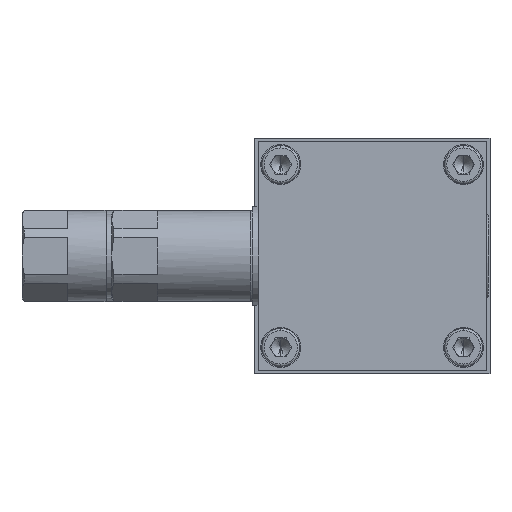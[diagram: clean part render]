
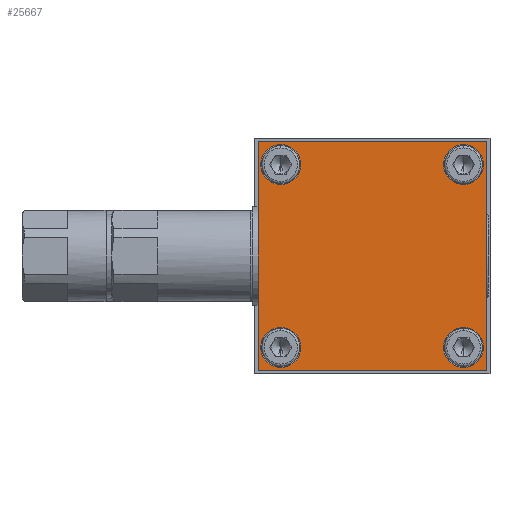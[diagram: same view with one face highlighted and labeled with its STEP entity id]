
A CAD part, left-side view. The second image highlights one B-rep face of the part: STEP entity #25667.
In plain terms, the highlighted planar face has unit normal (-1, 0, 0).
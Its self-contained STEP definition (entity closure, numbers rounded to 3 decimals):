
#409 = EDGE_LOOP ( 'NONE', ( #90012, #29654, #42961, #59176 ) ) ;
#1700 = DIRECTION ( 'NONE',  ( 0., 0., 1. ) ) ;
#3852 = CARTESIAN_POINT ( 'NONE',  ( -38., -30., 30. ) ) ;
#3922 = DIRECTION ( 'NONE',  ( -1., 0., 0. ) ) ;
#4095 = CARTESIAN_POINT ( 'NONE',  ( -38., 24.04, -24.04 ) ) ;
#6336 = AXIS2_PLACEMENT_3D ( 'NONE', #87840, #42021, #95630 ) ;
#7886 = ORIENTED_EDGE ( 'NONE', *, *, #92901, .F. ) ;
#7921 = EDGE_CURVE ( 'NONE', #59998, #23229, #30183, .T. ) ;
#11490 = AXIS2_PLACEMENT_3D ( 'NONE', #49812, #3922, #57502 ) ;
#11801 = EDGE_CURVE ( 'NONE', #59588, #82452, #30460, .T. ) ;
#11867 = DIRECTION ( 'NONE',  ( 0., 0., 1. ) ) ;
#13261 = VERTEX_POINT ( 'NONE', #88669 ) ;
#13853 = CARTESIAN_POINT ( 'NONE',  ( -38., 24.04, -18.79 ) ) ;
#14772 = EDGE_LOOP ( 'NONE', ( #75531, #7886 ) ) ;
#15905 = CARTESIAN_POINT ( 'NONE',  ( -38., -24.04, -29.29 ) ) ;
#16059 = FACE_BOUND ( 'NONE', #48789, .T. ) ;
#16063 = EDGE_CURVE ( 'NONE', #23229, #59998, #85969, .T. ) ;
#16234 = VERTEX_POINT ( 'NONE', #13853 ) ;
#16946 = DIRECTION ( 'NONE',  ( 1., 0., 0. ) ) ;
#18758 = CARTESIAN_POINT ( 'NONE',  ( -38., 30., -30. ) ) ;
#19207 = DIRECTION ( 'NONE',  ( -1., 0., 0. ) ) ;
#21869 = AXIS2_PLACEMENT_3D ( 'NONE', #62698, #16946, #70401 ) ;
#23229 = VERTEX_POINT ( 'NONE', #71041 ) ;
#23517 = LINE ( 'NONE', #60705, #64203 ) ;
#23582 = DIRECTION ( 'NONE',  ( -1., 0., 0. ) ) ;
#24572 = LINE ( 'NONE', #92170, #62835 ) ;
#25029 = CARTESIAN_POINT ( 'NONE',  ( -38., -24.04, -24.04 ) ) ;
#25667 = ADVANCED_FACE ( 'NONE', ( #95123, #16059, #33961, #54327, #74709 ), #70074, .F. ) ;
#25847 = EDGE_CURVE ( 'NONE', #13261, #16234, #28035, .T. ) ;
#28035 = CIRCLE ( 'NONE', #45600, 5.25 ) ;
#29654 = ORIENTED_EDGE ( 'NONE', *, *, #77397, .F. ) ;
#30183 = CIRCLE ( 'NONE', #83607, 5.25 ) ;
#30460 = LINE ( 'NONE', #77219, #71164 ) ;
#31145 = AXIS2_PLACEMENT_3D ( 'NONE', #25029, #78525, #32717 ) ;
#31370 = DIRECTION ( 'NONE',  ( 0., 0., 1. ) ) ;
#31404 = AXIS2_PLACEMENT_3D ( 'NONE', #93515, #47614, #1700 ) ;
#32717 = DIRECTION ( 'NONE',  ( 0., 0., 1. ) ) ;
#32849 = ORIENTED_EDGE ( 'NONE', *, *, #40377, .F. ) ;
#33961 = FACE_BOUND ( 'NONE', #14772, .T. ) ;
#34431 = VERTEX_POINT ( 'NONE', #62338 ) ;
#37870 = ORIENTED_EDGE ( 'NONE', *, *, #95607, .F. ) ;
#39008 = VERTEX_POINT ( 'NONE', #90641 ) ;
#40377 = EDGE_CURVE ( 'NONE', #44086, #84484, #89484, .T. ) ;
#40540 = CARTESIAN_POINT ( 'NONE',  ( -38., -24.04, 29.29 ) ) ;
#40981 = DIRECTION ( 'NONE',  ( -1., 0., 0. ) ) ;
#41499 = DIRECTION ( 'NONE',  ( 0., -1., 0. ) ) ;
#42021 = DIRECTION ( 'NONE',  ( -1., 0., 0. ) ) ;
#42883 = CARTESIAN_POINT ( 'NONE',  ( -38., 24.04, 18.79 ) ) ;
#42961 = ORIENTED_EDGE ( 'NONE', *, *, #61738, .F. ) ;
#43215 = CIRCLE ( 'NONE', #48469, 5.25 ) ;
#44086 = VERTEX_POINT ( 'NONE', #67153 ) ;
#45593 = AXIS2_PLACEMENT_3D ( 'NONE', #86794, #40981, #94595 ) ;
#45600 = AXIS2_PLACEMENT_3D ( 'NONE', #4095, #57652, #11867 ) ;
#47614 = DIRECTION ( 'NONE',  ( -1., 0., 0. ) ) ;
#48453 = VECTOR ( 'NONE', #41499, 1000. ) ;
#48464 = ORIENTED_EDGE ( 'NONE', *, *, #54853, .F. ) ;
#48469 = AXIS2_PLACEMENT_3D ( 'NONE', #64975, #19207, #72685 ) ;
#48789 = EDGE_LOOP ( 'NONE', ( #70313, #97391 ) ) ;
#49812 = CARTESIAN_POINT ( 'NONE',  ( -38., -24.04, -24.04 ) ) ;
#49945 = CIRCLE ( 'NONE', #6336, 5.25 ) ;
#52974 = CARTESIAN_POINT ( 'NONE',  ( -38., -30., -30. ) ) ;
#53963 = DIRECTION ( 'NONE',  ( 0., -1., 0. ) ) ;
#54327 = FACE_BOUND ( 'NONE', #73800, .T. ) ;
#54656 = EDGE_LOOP ( 'NONE', ( #48464, #71684 ) ) ;
#54853 = EDGE_CURVE ( 'NONE', #16234, #13261, #43215, .T. ) ;
#57502 = DIRECTION ( 'NONE',  ( 0., 0., 1. ) ) ;
#57652 = DIRECTION ( 'NONE',  ( -1., 0., 0. ) ) ;
#59176 = ORIENTED_EDGE ( 'NONE', *, *, #85812, .T. ) ;
#59588 = VERTEX_POINT ( 'NONE', #52974 ) ;
#59998 = VERTEX_POINT ( 'NONE', #42883 ) ;
#60705 = CARTESIAN_POINT ( 'NONE',  ( -38., 30., 30. ) ) ;
#61214 = VERTEX_POINT ( 'NONE', #68857 ) ;
#61738 = EDGE_CURVE ( 'NONE', #39008, #61214, #23517, .T. ) ;
#62338 = CARTESIAN_POINT ( 'NONE',  ( -38., -24.04, 18.79 ) ) ;
#62698 = CARTESIAN_POINT ( 'NONE',  ( -38., 30., 30. ) ) ;
#62835 = VECTOR ( 'NONE', #53963, 1000. ) ;
#64203 = VECTOR ( 'NONE', #68398, 1000. ) ;
#64975 = CARTESIAN_POINT ( 'NONE',  ( -38., 24.04, -24.04 ) ) ;
#67153 = CARTESIAN_POINT ( 'NONE',  ( -38., -24.04, -18.79 ) ) ;
#67705 = CIRCLE ( 'NONE', #31404, 5.25 ) ;
#68398 = DIRECTION ( 'NONE',  ( 0., 0., 1. ) ) ;
#68857 = CARTESIAN_POINT ( 'NONE',  ( -38., 30., 30. ) ) ;
#69396 = CARTESIAN_POINT ( 'NONE',  ( -38., 24.04, 24.04 ) ) ;
#70074 = PLANE ( 'NONE',  #21869 ) ;
#70313 = ORIENTED_EDGE ( 'NONE', *, *, #16063, .F. ) ;
#70401 = DIRECTION ( 'NONE',  ( 0., 0., -1. ) ) ;
#71041 = CARTESIAN_POINT ( 'NONE',  ( -38., 24.04, 29.29 ) ) ;
#71164 = VECTOR ( 'NONE', #31370, 1000. ) ;
#71684 = ORIENTED_EDGE ( 'NONE', *, *, #25847, .F. ) ;
#72685 = DIRECTION ( 'NONE',  ( 0., 0., 1. ) ) ;
#73800 = EDGE_LOOP ( 'NONE', ( #32849, #37870 ) ) ;
#74709 = FACE_OUTER_BOUND ( 'NONE', #409, .T. ) ;
#75531 = ORIENTED_EDGE ( 'NONE', *, *, #93317, .F. ) ;
#77102 = DIRECTION ( 'NONE',  ( 0., 0., 1. ) ) ;
#77219 = CARTESIAN_POINT ( 'NONE',  ( -38., -30., 30. ) ) ;
#77397 = EDGE_CURVE ( 'NONE', #61214, #82452, #24572, .T. ) ;
#78525 = DIRECTION ( 'NONE',  ( -1., 0., 0. ) ) ;
#82452 = VERTEX_POINT ( 'NONE', #3852 ) ;
#83607 = AXIS2_PLACEMENT_3D ( 'NONE', #69396, #23582, #77102 ) ;
#84484 = VERTEX_POINT ( 'NONE', #15905 ) ;
#85812 = EDGE_CURVE ( 'NONE', #39008, #59588, #91627, .T. ) ;
#85969 = CIRCLE ( 'NONE', #45593, 5.25 ) ;
#86794 = CARTESIAN_POINT ( 'NONE',  ( -38., 24.04, 24.04 ) ) ;
#87840 = CARTESIAN_POINT ( 'NONE',  ( -38., -24.04, 24.04 ) ) ;
#88669 = CARTESIAN_POINT ( 'NONE',  ( -38., 24.04, -29.29 ) ) ;
#89484 = CIRCLE ( 'NONE', #11490, 5.25 ) ;
#90012 = ORIENTED_EDGE ( 'NONE', *, *, #11801, .T. ) ;
#90641 = CARTESIAN_POINT ( 'NONE',  ( -38., 30., -30. ) ) ;
#91627 = LINE ( 'NONE', #18758, #48453 ) ;
#92170 = CARTESIAN_POINT ( 'NONE',  ( -38., 30., 30. ) ) ;
#92901 = EDGE_CURVE ( 'NONE', #34431, #95074, #49945, .T. ) ;
#93317 = EDGE_CURVE ( 'NONE', #95074, #34431, #67705, .T. ) ;
#93515 = CARTESIAN_POINT ( 'NONE',  ( -38., -24.04, 24.04 ) ) ;
#94340 = CIRCLE ( 'NONE', #31145, 5.25 ) ;
#94595 = DIRECTION ( 'NONE',  ( 0., 0., 1. ) ) ;
#95074 = VERTEX_POINT ( 'NONE', #40540 ) ;
#95123 = FACE_BOUND ( 'NONE', #54656, .T. ) ;
#95607 = EDGE_CURVE ( 'NONE', #84484, #44086, #94340, .T. ) ;
#95630 = DIRECTION ( 'NONE',  ( 0., 0., 1. ) ) ;
#97391 = ORIENTED_EDGE ( 'NONE', *, *, #7921, .F. ) ;
